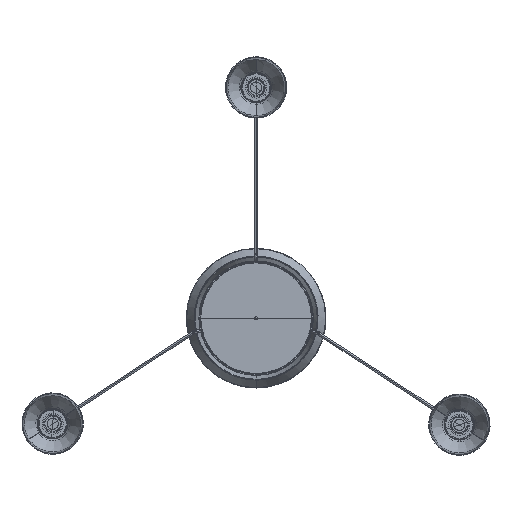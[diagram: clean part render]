
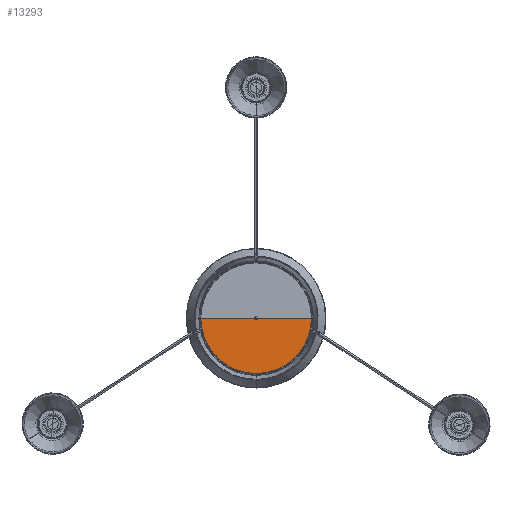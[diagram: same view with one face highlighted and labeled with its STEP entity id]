
A CAD part, top view. The second image highlights one B-rep face of the part: STEP entity #13293.
In plain terms, the highlighted planar face has unit normal (0, 0, 1).
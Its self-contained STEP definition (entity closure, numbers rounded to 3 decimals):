
#1235=PLANE('',#14486);
#1794=FACE_OUTER_BOUND('',#2659,.T.);
#2659=EDGE_LOOP('',(#10365,#10366));
#3537=LINE('',#26063,#4294);
#4294=VECTOR('',#17125,304.8);
#4948=CIRCLE('',#14487,108.233);
#5828=VERTEX_POINT('',#26060);
#5829=VERTEX_POINT('',#26061);
#7426=EDGE_CURVE('',#5828,#5829,#4948,.T.);
#7427=EDGE_CURVE('',#5829,#5828,#3537,.T.);
#10365=ORIENTED_EDGE('',*,*,#7426,.F.);
#10366=ORIENTED_EDGE('',*,*,#7427,.F.);
#13293=ADVANCED_FACE('',(#1794),#1235,.T.);
#14486=AXIS2_PLACEMENT_3D('',#26059,#17121,#17122);
#14487=AXIS2_PLACEMENT_3D('',#26062,#17123,#17124);
#17121=DIRECTION('center_axis',(0.,0.,1.));
#17122=DIRECTION('ref_axis',(1.,0.,0.));
#17123=DIRECTION('center_axis',(0.,0.,-1.));
#17124=DIRECTION('ref_axis',(0.809,0.588,0.));
#17125=DIRECTION('',(1.,0.,0.));
#26059=CARTESIAN_POINT('Origin',(0.,0.,
23.91));
#26060=CARTESIAN_POINT('',(108.233,0.,23.91));
#26061=CARTESIAN_POINT('',(-108.233,0.,23.91));
#26062=CARTESIAN_POINT('Origin',(0.,0.,
23.91));
#26063=CARTESIAN_POINT('',(3.,0.,23.91));
